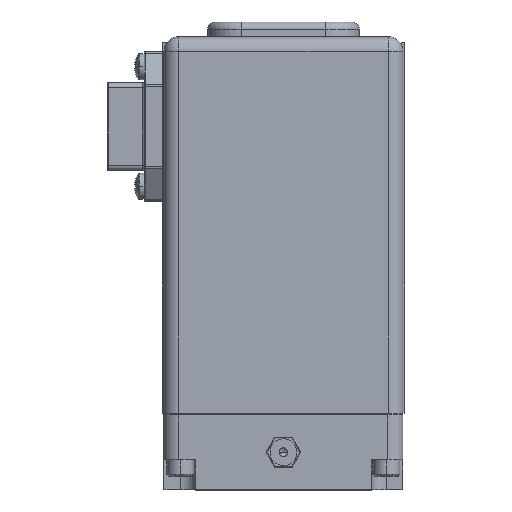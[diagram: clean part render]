
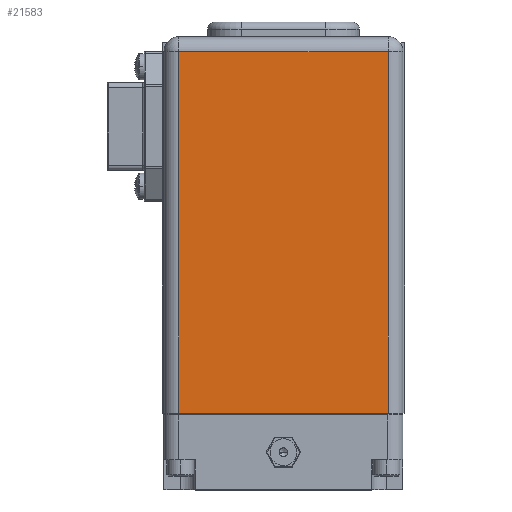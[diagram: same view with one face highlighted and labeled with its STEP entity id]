
A CAD part, top view. The second image highlights one B-rep face of the part: STEP entity #21583.
In plain terms, the highlighted planar face has unit normal (0, 0, 1) as drawn and (0, -1, 0) by its records, which use the part's own axes.
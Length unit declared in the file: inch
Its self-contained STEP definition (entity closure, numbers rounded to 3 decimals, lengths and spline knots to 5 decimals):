
#239 = VERTEX_POINT ( 'NONE', #24838 ) ;
#381 = FACE_OUTER_BOUND ( 'NONE', #9272, .T. ) ;
#495 = CARTESIAN_POINT ( 'NONE',  ( 1., -1., 0. ) ) ;
#746 = EDGE_CURVE ( 'NONE', #754, #17296, #11180, .T. ) ;
#747 = VECTOR ( 'NONE', #3522, 39.37008 ) ;
#754 = VERTEX_POINT ( 'NONE', #5914 ) ;
#1184 = EDGE_CURVE ( 'NONE', #239, #15627, #19692, .T. ) ;
#1741 = ORIENTED_EDGE ( 'NONE', *, *, #13426, .T. ) ;
#1780 = ORIENTED_EDGE ( 'NONE', *, *, #1184, .T. ) ;
#1885 = VECTOR ( 'NONE', #20176, 39.37008 ) ;
#2833 = VECTOR ( 'NONE', #5324, 39.37008 ) ;
#3522 = DIRECTION ( 'NONE',  ( 0., 0., 1. ) ) ;
#4351 = DIRECTION ( 'NONE',  ( -1., 0., 0. ) ) ;
#4661 = VECTOR ( 'NONE', #19846, 39.37008 ) ;
#5324 = DIRECTION ( 'NONE',  ( 1., 0., 0. ) ) ;
#5914 = CARTESIAN_POINT ( 'NONE',  ( 0.875, -1., -3.025 ) ) ;
#7302 = CARTESIAN_POINT ( 'NONE',  ( 1., -1., -3.025 ) ) ;
#7718 = CARTESIAN_POINT ( 'NONE',  ( -0.875, -1., -3.025 ) ) ;
#8134 = PLANE ( 'NONE',  #25286 ) ;
#9272 = EDGE_LOOP ( 'NONE', ( #1741, #1780, #23355, #17249 ) ) ;
#9687 = CARTESIAN_POINT ( 'NONE',  ( 0.875, -1., -3.15 ) ) ;
#11180 = LINE ( 'NONE', #9687, #747 ) ;
#12371 = LINE ( 'NONE', #495, #1885 ) ;
#13426 = EDGE_CURVE ( 'NONE', #17296, #239, #12371, .T. ) ;
#13722 = EDGE_CURVE ( 'NONE', #15627, #754, #21852, .T. ) ;
#15627 = VERTEX_POINT ( 'NONE', #7718 ) ;
#16099 = DIRECTION ( 'NONE',  ( 0., 1., 0. ) ) ;
#17249 = ORIENTED_EDGE ( 'NONE', *, *, #746, .T. ) ;
#17296 = VERTEX_POINT ( 'NONE', #19720 ) ;
#19692 = LINE ( 'NONE', #22102, #4661 ) ;
#19720 = CARTESIAN_POINT ( 'NONE',  ( 0.875, -1., 0. ) ) ;
#19846 = DIRECTION ( 'NONE',  ( 0., 0., -1. ) ) ;
#20176 = DIRECTION ( 'NONE',  ( -1., 0., 0. ) ) ;
#21583 = ADVANCED_FACE ( 'NONE', ( #381 ), #8134, .F. ) ;
#21852 = LINE ( 'NONE', #7302, #2833 ) ;
#22102 = CARTESIAN_POINT ( 'NONE',  ( -0.875, -1., -3.15 ) ) ;
#23355 = ORIENTED_EDGE ( 'NONE', *, *, #13722, .T. ) ;
#23884 = CARTESIAN_POINT ( 'NONE',  ( 1., -1., -3.15 ) ) ;
#24838 = CARTESIAN_POINT ( 'NONE',  ( -0.875, -1., 0. ) ) ;
#25286 = AXIS2_PLACEMENT_3D ( 'NONE', #23884, #16099, #4351 ) ;
